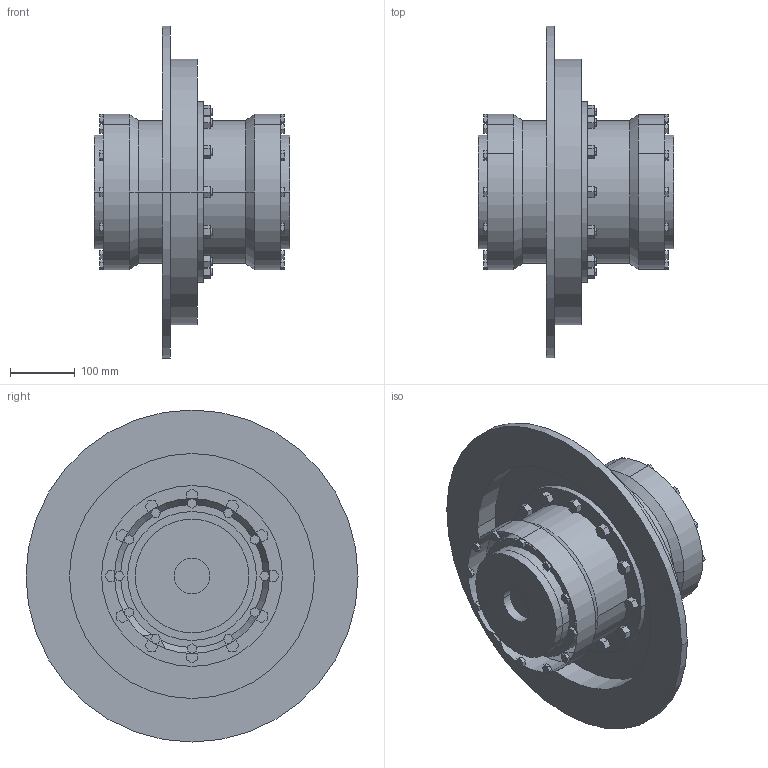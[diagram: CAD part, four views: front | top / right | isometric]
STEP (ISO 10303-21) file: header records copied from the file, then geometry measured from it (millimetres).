
FILE_DESCRIPTION((''),'2;1');
FILE_NAME('A19101400-0_ASM','2019-05-23T',('AB_Roschiwal'),('RENK AG'),'PRO/ENGINEER BY PARAMETRIC TECHNOLOGY CORPORATION, 2015440','PRO/ENGINEER BY PARAMETRIC TECHNOLOGY CORPORATION, 2015440','');
FILE_SCHEMA(('CONFIG_CONTROL_DESIGN'));
Length unit declared in the file: millimetre
Products named in the file (4): SBKT110_GEHAEUSE; SBKT110_NABE; SBKT110_BREMSSCHEIBE; A19101400-0_ASM
Assembly tree (4 placements, depth 2):
  A19101400-0_ASM
    SBKT110_GEHAEUSE
    SBKT110_NABE  x2
    SBKT110_BREMSSCHEIBE
Bounding box: 303 x 514 x 514 mm (x, y, z)
Volume: 12998814.1 mm3; surface area: 1264894.7 mm2
Topology: 4 solids, 4 shells, 470 faces, 1272 edges, 812 vertices
Faces by surface type: plane 370, cylinder 96, cone 4
Entity records: 13708 total; most frequent: CARTESIAN_POINT 2366, ORIENTED_EDGE 2304, DIRECTION 2280, EDGE_CURVE 1152, VECTOR 956, LINE 956, VERTEX_POINT 748, AXIS2_PLACEMENT_3D 662
